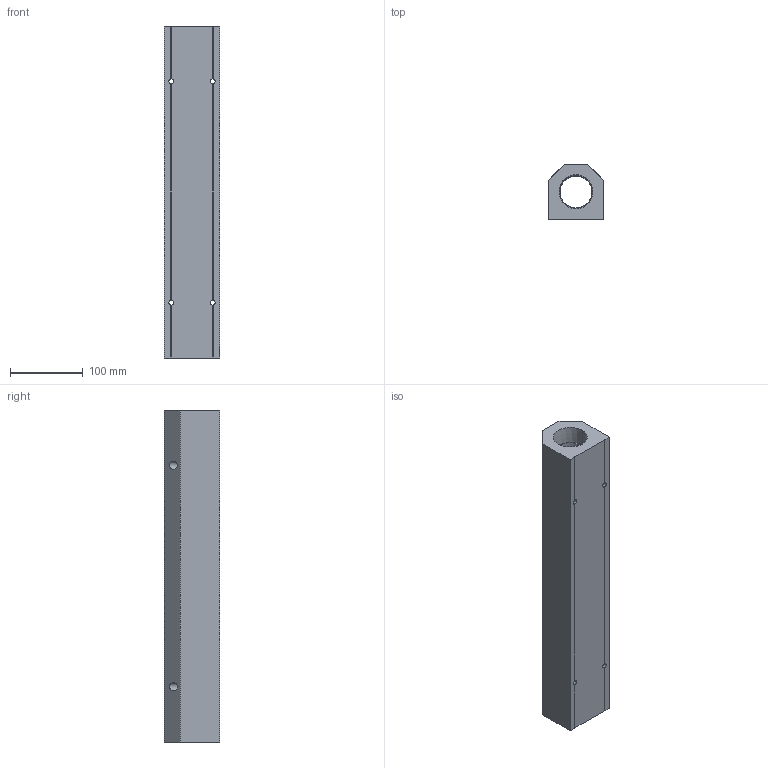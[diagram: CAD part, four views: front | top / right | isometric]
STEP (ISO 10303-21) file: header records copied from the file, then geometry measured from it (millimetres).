
FILE_DESCRIPTION (( 'STEP AP214' ), '1' );
FILE_NAME ('ALM8C-N8N24-457B.step', '2022-02-07T09:29:30', ( '' ), ( '' ), 'SwSTEP 2.0', 'SolidWorks 2020', '' );
FILE_SCHEMA (( 'AUTOMOTIVE_DESIGN' ));
Length unit declared in the file: millimetre
Products named in the file (1): ALM8C-N8N24-457B
Bounding box: 76.2 x 76.2 x 457 mm (x, y, z)
Volume: 1662731.1 mm3; surface area: 207373 mm2
Topology: 1 solids, 1 shells, 305 faces, 802 edges, 532 vertices
Faces by surface type: plane 197, bspline 70, cone 20, cylinder 18
Entity records: 17107 total; most frequent: CARTESIAN_POINT 7182, ORIENTED_EDGE 1604, DIRECTION 1154, EDGE_CURVE 802, LINE 578, VECTOR 578, VERTEX_POINT 532, EDGE_LOOP 364
